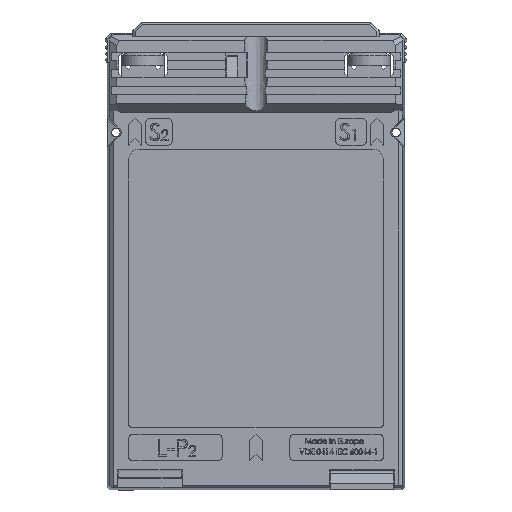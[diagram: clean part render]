
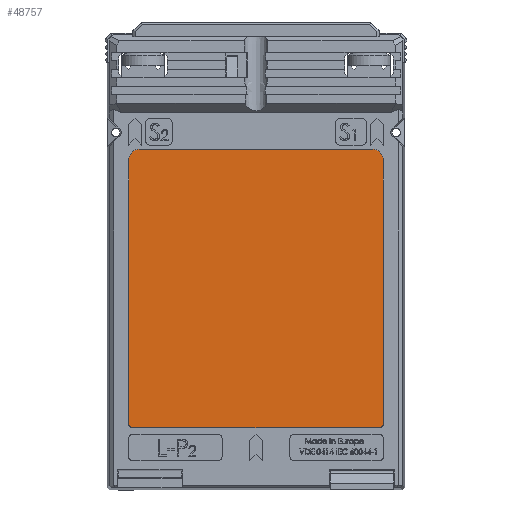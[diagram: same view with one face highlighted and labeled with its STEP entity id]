
A CAD part, top view. The second image highlights one B-rep face of the part: STEP entity #48757.
In plain terms, the highlighted planar face has unit normal (0, 0, 1).
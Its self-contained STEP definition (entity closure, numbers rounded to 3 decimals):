
#39173 = EDGE_CURVE ( 'NONE', #41059, #46394, #51630, .T. ) ;
#41055 = EDGE_CURVE ( 'NONE', #61970, #61961, #51736, .T. ) ;
#41059 = VERTEX_POINT ( 'NONE', #51728 ) ;
#44743 = VERTEX_POINT ( 'NONE', #52329 ) ;
#46249 = VERTEX_POINT ( 'NONE', #52438 ) ;
#46256 = EDGE_CURVE ( 'NONE', #46249, #41059, #52453, .T. ) ;
#46394 = VERTEX_POINT ( 'NONE', #51861 ) ;
#46432 = ORIENTED_EDGE ( 'NONE', *, *, #46508, .T. ) ;
#46508 = EDGE_CURVE ( 'NONE', #46850, #44743, #51434, .T. ) ;
#46521 = EDGE_CURVE ( 'NONE', #44743, #46249, #52439, .T. ) ;
#46600 = EDGE_CURVE ( 'NONE', #48612, #46850, #52523, .T. ) ;
#46850 = VERTEX_POINT ( 'NONE', #52490 ) ;
#48517 = ORIENTED_EDGE ( 'NONE', *, *, #41055, .T. ) ;
#48604 = ORIENTED_EDGE ( 'NONE', *, *, #46600, .T. ) ;
#48612 = VERTEX_POINT ( 'NONE', #52671 ) ;
#48757 = ADVANCED_FACE ( 'NONE', ( #52660 ), #52780, .T. ) ;
#48890 = EDGE_LOOP ( 'NONE', ( #48517, #49036, #48604, #46432, #62673, #62710, #62671, #62692 ) ) ;
#48996 = EDGE_CURVE ( 'NONE', #61961, #48612, #52853, .T. ) ;
#49036 = ORIENTED_EDGE ( 'NONE', *, *, #48996, .T. ) ;
#51420 = VECTOR ( 'NONE', #51447, 1000. ) ;
#51428 = CARTESIAN_POINT ( 'NONE',  ( -27.5, 48.65, 24.995 ) ) ;
#51434 = LINE ( 'NONE', #51428, #51420 ) ;
#51447 = DIRECTION ( 'NONE',  ( -1., 0., 0. ) ) ;
#51538 = CARTESIAN_POINT ( 'NONE',  ( -29., -16., 24.995 ) ) ;
#51609 = DIRECTION ( 'NONE',  ( -1., 0., 0. ) ) ;
#51610 = DIRECTION ( 'NONE',  ( 0., 0., 1. ) ) ;
#51630 = CIRCLE ( 'NONE', #51646, 1. ) ;
#51646 = AXIS2_PLACEMENT_3D ( 'NONE', #51538, #51610, #51609 ) ;
#51728 = CARTESIAN_POINT ( 'NONE',  ( -30., -16., 24.995 ) ) ;
#51736 = CIRCLE ( 'NONE', #51831, 1. ) ;
#51827 = DIRECTION ( 'NONE',  ( 1., 0., 0. ) ) ;
#51829 = DIRECTION ( 'NONE',  ( 0., 0., 1. ) ) ;
#51830 = CARTESIAN_POINT ( 'NONE',  ( 29., -16., 24.995 ) ) ;
#51831 = AXIS2_PLACEMENT_3D ( 'NONE', #51830, #51829, #51827 ) ;
#51861 = CARTESIAN_POINT ( 'NONE',  ( -29., -17., 24.995 ) ) ;
#52329 = CARTESIAN_POINT ( 'NONE',  ( -27.5, 48.65, 24.995 ) ) ;
#52412 = DIRECTION ( 'NONE',  ( 0., 0., 1. ) ) ;
#52413 = CARTESIAN_POINT ( 'NONE',  ( -27.5, 46.15, 24.995 ) ) ;
#52416 = AXIS2_PLACEMENT_3D ( 'NONE', #52413, #52412, #52430 ) ;
#52424 = DIRECTION ( 'NONE',  ( 0., -1., 0. ) ) ;
#52425 = VECTOR ( 'NONE', #52424, 1000. ) ;
#52430 = DIRECTION ( 'NONE',  ( 1., 0., 0. ) ) ;
#52438 = CARTESIAN_POINT ( 'NONE',  ( -30., 46.15, 24.995 ) ) ;
#52439 = CIRCLE ( 'NONE', #52416, 2.5 ) ;
#52452 = CARTESIAN_POINT ( 'NONE',  ( -30., 46.15, 24.995 ) ) ;
#52453 = LINE ( 'NONE', #52452, #52425 ) ;
#52490 = CARTESIAN_POINT ( 'NONE',  ( 27.5, 48.65, 24.995 ) ) ;
#52496 = DIRECTION ( 'NONE',  ( -1., 0., 0. ) ) ;
#52498 = DIRECTION ( 'NONE',  ( 0., 0., 1. ) ) ;
#52500 = AXIS2_PLACEMENT_3D ( 'NONE', #52524, #52498, #52496 ) ;
#52523 = CIRCLE ( 'NONE', #52500, 2.5 ) ;
#52524 = CARTESIAN_POINT ( 'NONE',  ( 27.5, 46.15, 24.995 ) ) ;
#52660 = FACE_OUTER_BOUND ( 'NONE', #48890, .T. ) ;
#52671 = CARTESIAN_POINT ( 'NONE',  ( 30., 46.15, 24.995 ) ) ;
#52774 = DIRECTION ( 'NONE',  ( 1., 0., 0. ) ) ;
#52776 = DIRECTION ( 'NONE',  ( 0., 0., 1. ) ) ;
#52780 = PLANE ( 'NONE',  #52784 ) ;
#52784 = AXIS2_PLACEMENT_3D ( 'NONE', #52789, #52776, #52774 ) ;
#52789 = CARTESIAN_POINT ( 'NONE',  ( 29., -16., 24.995 ) ) ;
#52848 = DIRECTION ( 'NONE',  ( 0., 1., 0. ) ) ;
#52849 = VECTOR ( 'NONE', #52848, 1000. ) ;
#52851 = CARTESIAN_POINT ( 'NONE',  ( 30., 46.15, 24.995 ) ) ;
#52853 = LINE ( 'NONE', #52851, #52849 ) ;
#57501 = CARTESIAN_POINT ( 'NONE',  ( 29., -17., 24.995 ) ) ;
#57613 = LINE ( 'NONE', #57727, #57725 ) ;
#57638 = CARTESIAN_POINT ( 'NONE',  ( 30., -16., 24.995 ) ) ;
#57723 = DIRECTION ( 'NONE',  ( 1., 0., 0. ) ) ;
#57725 = VECTOR ( 'NONE', #57723, 1000. ) ;
#57727 = CARTESIAN_POINT ( 'NONE',  ( -29., -17., 24.995 ) ) ;
#61961 = VERTEX_POINT ( 'NONE', #57638 ) ;
#61970 = VERTEX_POINT ( 'NONE', #57501 ) ;
#61973 = EDGE_CURVE ( 'NONE', #46394, #61970, #57613, .T. ) ;
#62671 = ORIENTED_EDGE ( 'NONE', *, *, #39173, .T. ) ;
#62673 = ORIENTED_EDGE ( 'NONE', *, *, #46521, .T. ) ;
#62692 = ORIENTED_EDGE ( 'NONE', *, *, #61973, .T. ) ;
#62710 = ORIENTED_EDGE ( 'NONE', *, *, #46256, .T. ) ;
